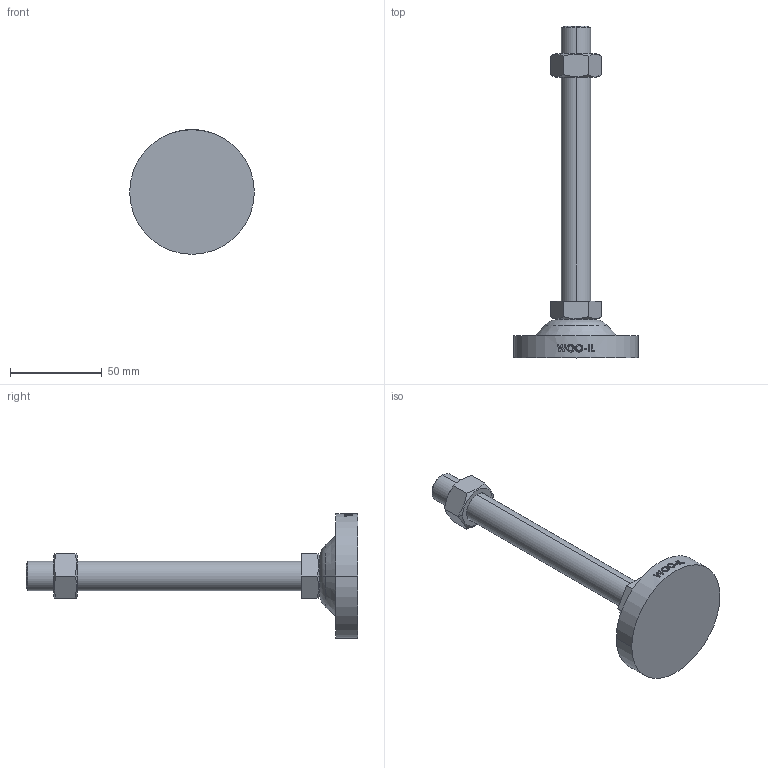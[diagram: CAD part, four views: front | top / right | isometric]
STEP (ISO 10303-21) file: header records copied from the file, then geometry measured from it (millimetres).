
FILE_DESCRIPTION (( 'STEP AP214' ), '1' );
FILE_NAME ('RB68-M16-150.step', '2021-01-18T05:50:45', ( '' ), ( '' ), 'SwSTEP 2.0', 'SolidWorks 2019', '' );
FILE_SCHEMA (( 'AUTOMOTIVE_DESIGN' ));
Length unit declared in the file: millimetre
Products named in the file (2): RB68-M16-150
Bounding box: 68 x 181 x 68 mm (x, y, z)
Volume: 87108 mm3; surface area: 23561.4 mm2
Topology: 2 solids, 3 shells, 128 faces, 317 edges, 206 vertices
Faces by surface type: plane 48, cylinder 42, bspline 18, cone 16, torus 4
Entity records: 5349 total; most frequent: CARTESIAN_POINT 2507, ORIENTED_EDGE 634, DIRECTION 479, EDGE_CURVE 317, VERTEX_POINT 206, AXIS2_PLACEMENT_3D 176, EDGE_LOOP 141, FACE_OUTER_BOUND 128
